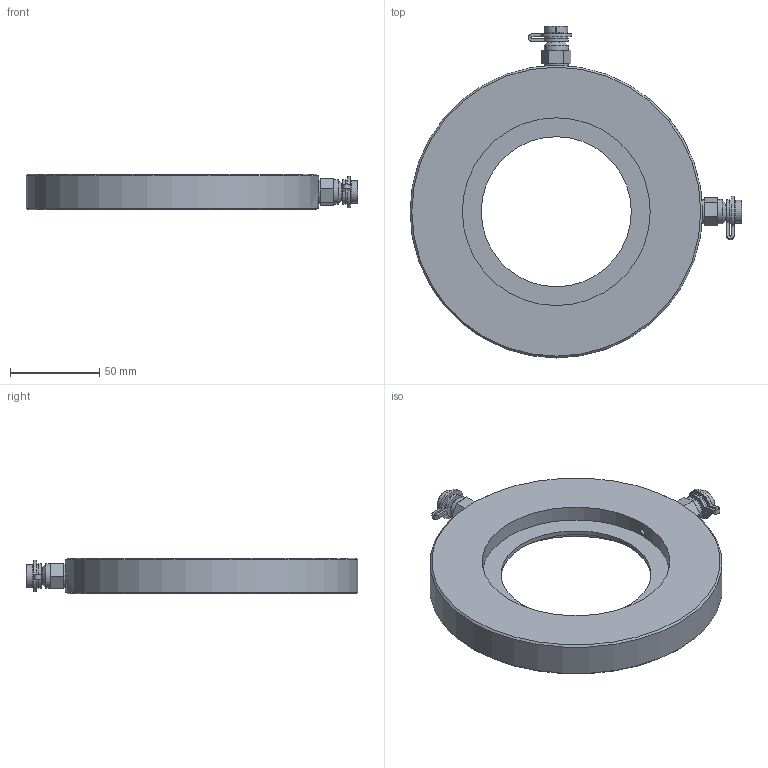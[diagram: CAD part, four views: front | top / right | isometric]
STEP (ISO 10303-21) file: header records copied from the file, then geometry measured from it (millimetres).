
FILE_DESCRIPTION((''),'2;1');
FILE_NAME('P:\Fastrack\53972_CRANE 3D\Workspace\HATTERSLEY\Fig-2000_DN100\Fig-2000_DN100.stp','2011-03-08T09:25:36',('btaylor'),(''),'Autodesk Inventor 2008','Autodesk Inventor 2008','');
FILE_SCHEMA(('AUTOMOTIVE_DESIGN { 1 0 10303 214 1 1 1 1 }'));
Length unit declared in the file: millimetre
Products named in the file (1): Fig-2000_DN100
Bounding box: 186.1 x 186.1 x 20 mm (x, y, z)
Volume: 262102.5 mm3; surface area: 50820.9 mm2
Topology: 1 solids, 1 shells, 109 faces, 256 edges, 166 vertices
Faces by surface type: plane 74, cylinder 27, cone 8
Full cylindrical faces by diameter (mm): 3.2 x2, 7.4 x2, 11 x2, 12.7 x2, 13.7 x2, 84.15 x1, 105.3 x2, 164 x1
Entity records: 3375 total; most frequent: CARTESIAN_POINT 786, DIRECTION 526, ORIENTED_EDGE 440, EDGE_CURVE 220, AXIS2_PLACEMENT_3D 202, EDGE_LOOP 156, VERTEX_POINT 154, VECTOR 122
